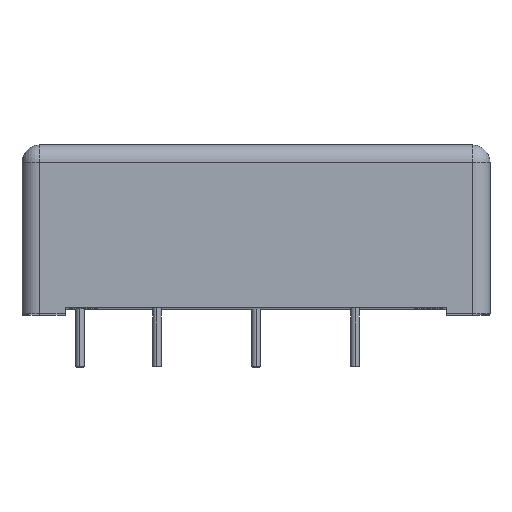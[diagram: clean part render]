
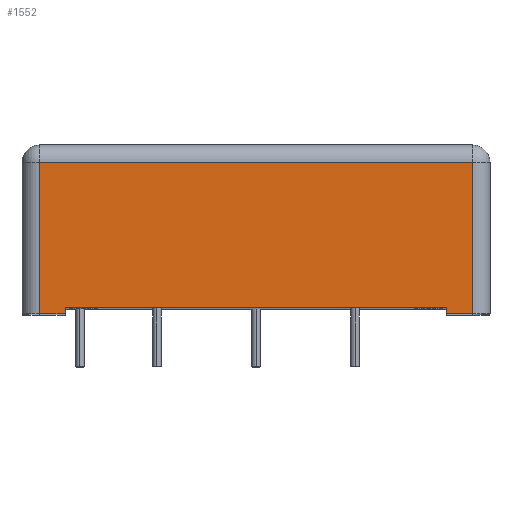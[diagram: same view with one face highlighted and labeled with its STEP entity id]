
A CAD part, top view. The second image highlights one B-rep face of the part: STEP entity #1552.
In plain terms, the highlighted planar face has unit normal (0, 0, 1).
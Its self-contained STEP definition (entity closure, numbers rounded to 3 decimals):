
#213 = CARTESIAN_POINT ( 'NONE',  ( 25., 18.8, 37. ) ) ;
#305 = VERTEX_POINT ( 'NONE', #4750 ) ;
#388 = DIRECTION ( 'NONE',  ( 0., 1., 0. ) ) ;
#842 = CARTESIAN_POINT ( 'NONE',  ( 22., 0., 37. ) ) ;
#912 = LINE ( 'NONE', #2229, #4786 ) ;
#996 = EDGE_CURVE ( 'NONE', #4983, #3405, #912, .T. ) ;
#1131 = VECTOR ( 'NONE', #1507, 1000. ) ;
#1198 = CARTESIAN_POINT ( 'NONE',  ( 22., -0.7, 37. ) ) ;
#1228 = ORIENTED_EDGE ( 'NONE', *, *, #3306, .F. ) ;
#1316 = PLANE ( 'NONE',  #4494 ) ;
#1378 = VERTEX_POINT ( 'NONE', #1198 ) ;
#1416 = LINE ( 'NONE', #213, #4607 ) ;
#1507 = DIRECTION ( 'NONE',  ( -1., 0., 0. ) ) ;
#1552 = ADVANCED_FACE ( 'NONE', ( #4889 ), #1316, .F. ) ;
#1651 = DIRECTION ( 'NONE',  ( 0., 1., 0. ) ) ;
#1667 = VECTOR ( 'NONE', #3133, 1000. ) ;
#1687 = CARTESIAN_POINT ( 'NONE',  ( -25., -0.7, 37. ) ) ;
#1696 = EDGE_CURVE ( 'NONE', #4277, #1378, #5482, .T. ) ;
#1881 = DIRECTION ( 'NONE',  ( -1., 0., 0. ) ) ;
#2055 = EDGE_CURVE ( 'NONE', #305, #3609, #5031, .T. ) ;
#2161 = LINE ( 'NONE', #4307, #3040 ) ;
#2208 = ORIENTED_EDGE ( 'NONE', *, *, #5024, .F. ) ;
#2229 = CARTESIAN_POINT ( 'NONE',  ( -27., 0., 37. ) ) ;
#2297 = CARTESIAN_POINT ( 'NONE',  ( -22., 0., 37. ) ) ;
#2792 = LINE ( 'NONE', #4999, #1131 ) ;
#2991 = EDGE_CURVE ( 'NONE', #3609, #4885, #4914, .T. ) ;
#3040 = VECTOR ( 'NONE', #388, 1000. ) ;
#3113 = DIRECTION ( 'NONE',  ( 1., 0., 0. ) ) ;
#3133 = DIRECTION ( 'NONE',  ( 0., -1., 0. ) ) ;
#3154 = ORIENTED_EDGE ( 'NONE', *, *, #1696, .F. ) ;
#3306 = EDGE_CURVE ( 'NONE', #1378, #3405, #2161, .T. ) ;
#3405 = VERTEX_POINT ( 'NONE', #842 ) ;
#3559 = CARTESIAN_POINT ( 'NONE',  ( -25., 16.8, 37. ) ) ;
#3609 = VERTEX_POINT ( 'NONE', #3559 ) ;
#3709 = DIRECTION ( 'NONE',  ( 0., 1., 0. ) ) ;
#3908 = ORIENTED_EDGE ( 'NONE', *, *, #2055, .T. ) ;
#3915 = CARTESIAN_POINT ( 'NONE',  ( -22., -0.7, 37. ) ) ;
#3974 = DIRECTION ( 'NONE',  ( -1., 0., 0. ) ) ;
#4037 = VECTOR ( 'NONE', #5456, 1000. ) ;
#4042 = EDGE_LOOP ( 'NONE', ( #5362, #3908, #4417, #2208, #5285, #4679, #1228, #3154 ) ) ;
#4175 = CARTESIAN_POINT ( 'NONE',  ( -25., 16.8, 37. ) ) ;
#4277 = VERTEX_POINT ( 'NONE', #5310 ) ;
#4307 = CARTESIAN_POINT ( 'NONE',  ( 22., -0.7, 37. ) ) ;
#4405 = VECTOR ( 'NONE', #1881, 1000. ) ;
#4417 = ORIENTED_EDGE ( 'NONE', *, *, #2991, .T. ) ;
#4455 = CARTESIAN_POINT ( 'NONE',  ( -27., 18.8, 37. ) ) ;
#4494 = AXIS2_PLACEMENT_3D ( 'NONE', #4455, #5661, #3974 ) ;
#4534 = EDGE_CURVE ( 'NONE', #4277, #305, #1416, .T. ) ;
#4607 = VECTOR ( 'NONE', #3709, 1000. ) ;
#4679 = ORIENTED_EDGE ( 'NONE', *, *, #996, .T. ) ;
#4690 = LINE ( 'NONE', #4744, #5521 ) ;
#4744 = CARTESIAN_POINT ( 'NONE',  ( -22., -0.7, 37. ) ) ;
#4750 = CARTESIAN_POINT ( 'NONE',  ( 25., 16.8, 37. ) ) ;
#4786 = VECTOR ( 'NONE', #3113, 1000. ) ;
#4885 = VERTEX_POINT ( 'NONE', #1687 ) ;
#4889 = FACE_OUTER_BOUND ( 'NONE', #4042, .T. ) ;
#4914 = LINE ( 'NONE', #5368, #1667 ) ;
#4946 = CARTESIAN_POINT ( 'NONE',  ( 25., -0.7, 37. ) ) ;
#4983 = VERTEX_POINT ( 'NONE', #2297 ) ;
#4999 = CARTESIAN_POINT ( 'NONE',  ( -22., -0.7, 37. ) ) ;
#5024 = EDGE_CURVE ( 'NONE', #5631, #4885, #2792, .T. ) ;
#5031 = LINE ( 'NONE', #4175, #4037 ) ;
#5285 = ORIENTED_EDGE ( 'NONE', *, *, #5551, .T. ) ;
#5310 = CARTESIAN_POINT ( 'NONE',  ( 25., -0.7, 37. ) ) ;
#5362 = ORIENTED_EDGE ( 'NONE', *, *, #4534, .T. ) ;
#5368 = CARTESIAN_POINT ( 'NONE',  ( -25., 18.8, 37. ) ) ;
#5456 = DIRECTION ( 'NONE',  ( -1., 0., 0. ) ) ;
#5482 = LINE ( 'NONE', #4946, #4405 ) ;
#5521 = VECTOR ( 'NONE', #1651, 1000. ) ;
#5551 = EDGE_CURVE ( 'NONE', #5631, #4983, #4690, .T. ) ;
#5631 = VERTEX_POINT ( 'NONE', #3915 ) ;
#5661 = DIRECTION ( 'NONE',  ( 0., 0., -1. ) ) ;
